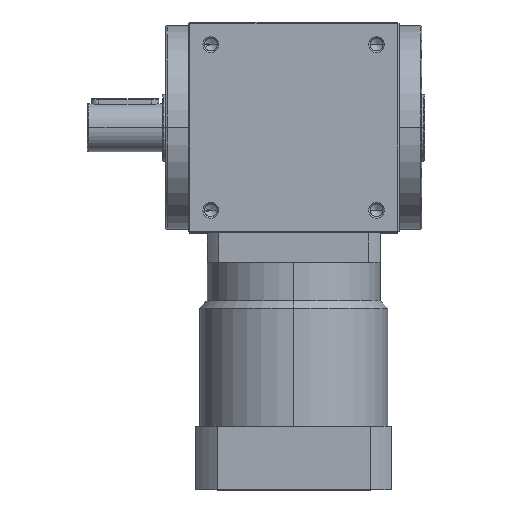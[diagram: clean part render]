
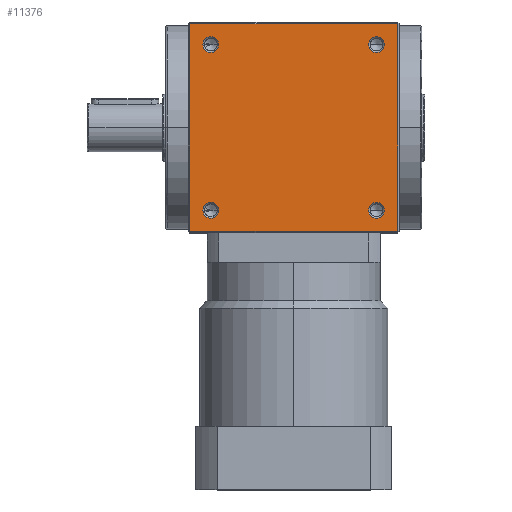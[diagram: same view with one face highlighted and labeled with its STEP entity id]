
A CAD part, top view. The second image highlights one B-rep face of the part: STEP entity #11376.
In plain terms, the highlighted planar face has unit normal (0, 0, 1).
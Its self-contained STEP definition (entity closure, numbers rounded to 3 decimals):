
#105 = CARTESIAN_POINT ( 'NONE',  ( 69., 0., 70. ) ) ;
#118 = ORIENTED_EDGE ( 'NONE', *, *, #1237, .F. ) ;
#139 = VERTEX_POINT ( 'NONE', #995 ) ;
#141 = FACE_BOUND ( 'NONE', #11591, .T. ) ;
#154 = CARTESIAN_POINT ( 'NONE',  ( 69., -69., 70. ) ) ;
#224 = EDGE_CURVE ( 'NONE', #4697, #1906, #8507, .T. ) ;
#240 = VECTOR ( 'NONE', #9110, 1000. ) ;
#300 = EDGE_CURVE ( 'NONE', #3401, #11997, #8054, .T. ) ;
#430 = CARTESIAN_POINT ( 'NONE',  ( 55., 55., 70. ) ) ;
#532 = ORIENTED_EDGE ( 'NONE', *, *, #1804, .T. ) ;
#893 = EDGE_CURVE ( 'NONE', #5810, #9175, #3849, .T. ) ;
#995 = CARTESIAN_POINT ( 'NONE',  ( -69., -69., 70. ) ) ;
#1186 = EDGE_LOOP ( 'NONE', ( #532, #3712, #5298, #3563 ) ) ;
#1200 = EDGE_CURVE ( 'NONE', #11997, #3401, #7726, .T. ) ;
#1237 = EDGE_CURVE ( 'NONE', #1906, #4697, #10354, .T. ) ;
#1308 = CARTESIAN_POINT ( 'NONE',  ( 49.75, -55., 70. ) ) ;
#1333 = EDGE_CURVE ( 'NONE', #9175, #5810, #2339, .T. ) ;
#1413 = LINE ( 'NONE', #1657, #4739 ) ;
#1416 = CARTESIAN_POINT ( 'NONE',  ( -55., -55., 70. ) ) ;
#1501 = DIRECTION ( 'NONE',  ( 1., 0., 0. ) ) ;
#1657 = CARTESIAN_POINT ( 'NONE',  ( -69., 0., 70. ) ) ;
#1804 = EDGE_CURVE ( 'NONE', #4635, #7590, #6040, .T. ) ;
#1906 = VERTEX_POINT ( 'NONE', #7453 ) ;
#2146 = DIRECTION ( 'NONE',  ( 0., 0., 1. ) ) ;
#2339 = CIRCLE ( 'NONE', #5748, 5.25 ) ;
#2342 = LINE ( 'NONE', #5012, #2616 ) ;
#2408 = DIRECTION ( 'NONE',  ( 1., 0., 0. ) ) ;
#2608 = DIRECTION ( 'NONE',  ( 0., -1., 0. ) ) ;
#2616 = VECTOR ( 'NONE', #9579, 1000. ) ;
#2628 = DIRECTION ( 'NONE',  ( 0., 0., 1. ) ) ;
#2719 = DIRECTION ( 'NONE',  ( 0., 0., 1. ) ) ;
#2971 = CARTESIAN_POINT ( 'NONE',  ( 0., 69., 70. ) ) ;
#3030 = DIRECTION ( 'NONE',  ( 0., 0., 1. ) ) ;
#3318 = CIRCLE ( 'NONE', #11906, 5.25 ) ;
#3401 = VERTEX_POINT ( 'NONE', #4058 ) ;
#3563 = ORIENTED_EDGE ( 'NONE', *, *, #9770, .T. ) ;
#3712 = ORIENTED_EDGE ( 'NONE', *, *, #10114, .T. ) ;
#3786 = CARTESIAN_POINT ( 'NONE',  ( 69., 69., 70. ) ) ;
#3849 = CIRCLE ( 'NONE', #6894, 5.25 ) ;
#4058 = CARTESIAN_POINT ( 'NONE',  ( -60.25, 55., 70. ) ) ;
#4178 = CARTESIAN_POINT ( 'NONE',  ( -60.25, -55., 70. ) ) ;
#4299 = EDGE_CURVE ( 'NONE', #6939, #7137, #3318, .T. ) ;
#4635 = VERTEX_POINT ( 'NONE', #154 ) ;
#4637 = DIRECTION ( 'NONE',  ( 0., 0., -1. ) ) ;
#4697 = VERTEX_POINT ( 'NONE', #1308 ) ;
#4739 = VECTOR ( 'NONE', #2608, 1000. ) ;
#4987 = DIRECTION ( 'NONE',  ( 1., 0., 0. ) ) ;
#5012 = CARTESIAN_POINT ( 'NONE',  ( 0., -69., 70. ) ) ;
#5035 = FACE_OUTER_BOUND ( 'NONE', #1186, .T. ) ;
#5106 = ORIENTED_EDGE ( 'NONE', *, *, #893, .F. ) ;
#5298 = ORIENTED_EDGE ( 'NONE', *, *, #9862, .T. ) ;
#5748 = AXIS2_PLACEMENT_3D ( 'NONE', #8249, #3030, #9223 ) ;
#5810 = VERTEX_POINT ( 'NONE', #7846 ) ;
#5829 = EDGE_LOOP ( 'NONE', ( #9556, #5106 ) ) ;
#5993 = CARTESIAN_POINT ( 'NONE',  ( -69., 69., 70. ) ) ;
#6040 = LINE ( 'NONE', #105, #10812 ) ;
#6076 = AXIS2_PLACEMENT_3D ( 'NONE', #7899, #2719, #8889 ) ;
#6128 = AXIS2_PLACEMENT_3D ( 'NONE', #7814, #2628, #8802 ) ;
#6300 = PLANE ( 'NONE',  #9923 ) ;
#6594 = ORIENTED_EDGE ( 'NONE', *, *, #4299, .F. ) ;
#6692 = DIRECTION ( 'NONE',  ( 0., 0., 1. ) ) ;
#6735 = ORIENTED_EDGE ( 'NONE', *, *, #224, .F. ) ;
#6851 = CARTESIAN_POINT ( 'NONE',  ( -49.75, 55., 70. ) ) ;
#6894 = AXIS2_PLACEMENT_3D ( 'NONE', #430, #6692, #1501 ) ;
#6902 = ORIENTED_EDGE ( 'NONE', *, *, #300, .F. ) ;
#6939 = VERTEX_POINT ( 'NONE', #9486 ) ;
#7044 = FACE_BOUND ( 'NONE', #12061, .T. ) ;
#7137 = VERTEX_POINT ( 'NONE', #4178 ) ;
#7139 = DIRECTION ( 'NONE',  ( 0., 0., 1. ) ) ;
#7168 = CARTESIAN_POINT ( 'NONE',  ( 55., -55., 70. ) ) ;
#7263 = CARTESIAN_POINT ( 'NONE',  ( -55., -55., 70. ) ) ;
#7431 = LINE ( 'NONE', #2971, #240 ) ;
#7453 = CARTESIAN_POINT ( 'NONE',  ( 60.25, -55., 70. ) ) ;
#7488 = CIRCLE ( 'NONE', #9844, 5.25 ) ;
#7559 = DIRECTION ( 'NONE',  ( 0., 0., 1. ) ) ;
#7590 = VERTEX_POINT ( 'NONE', #3786 ) ;
#7722 = VERTEX_POINT ( 'NONE', #5993 ) ;
#7726 = CIRCLE ( 'NONE', #6128, 5.25 ) ;
#7814 = CARTESIAN_POINT ( 'NONE',  ( -55., 55., 70. ) ) ;
#7846 = CARTESIAN_POINT ( 'NONE',  ( 49.75, 55., 70. ) ) ;
#7899 = CARTESIAN_POINT ( 'NONE',  ( 55., -55., 70. ) ) ;
#8046 = ORIENTED_EDGE ( 'NONE', *, *, #1200, .F. ) ;
#8054 = CIRCLE ( 'NONE', #8524, 5.25 ) ;
#8249 = CARTESIAN_POINT ( 'NONE',  ( 55., 55., 70. ) ) ;
#8259 = DIRECTION ( 'NONE',  ( 1., 0., 0. ) ) ;
#8507 = CIRCLE ( 'NONE', #8876, 5.25 ) ;
#8524 = AXIS2_PLACEMENT_3D ( 'NONE', #10492, #10477, #10386 ) ;
#8802 = DIRECTION ( 'NONE',  ( 1., 0., 0. ) ) ;
#8876 = AXIS2_PLACEMENT_3D ( 'NONE', #7168, #7139, #4987 ) ;
#8889 = DIRECTION ( 'NONE',  ( 1., 0., 0. ) ) ;
#9110 = DIRECTION ( 'NONE',  ( -1., 0., 0. ) ) ;
#9175 = VERTEX_POINT ( 'NONE', #10123 ) ;
#9223 = DIRECTION ( 'NONE',  ( 1., 0., 0. ) ) ;
#9261 = DIRECTION ( 'NONE',  ( 0., 1., 0. ) ) ;
#9486 = CARTESIAN_POINT ( 'NONE',  ( -49.75, -55., 70. ) ) ;
#9556 = ORIENTED_EDGE ( 'NONE', *, *, #1333, .F. ) ;
#9579 = DIRECTION ( 'NONE',  ( 1., 0., 0. ) ) ;
#9630 = FACE_BOUND ( 'NONE', #5829, .T. ) ;
#9770 = EDGE_CURVE ( 'NONE', #139, #4635, #2342, .T. ) ;
#9844 = AXIS2_PLACEMENT_3D ( 'NONE', #7263, #2146, #8259 ) ;
#9862 = EDGE_CURVE ( 'NONE', #7722, #139, #1413, .T. ) ;
#9923 = AXIS2_PLACEMENT_3D ( 'NONE', #10155, #4637, #11152 ) ;
#9962 = FACE_BOUND ( 'NONE', #12033, .T. ) ;
#10114 = EDGE_CURVE ( 'NONE', #7590, #7722, #7431, .T. ) ;
#10123 = CARTESIAN_POINT ( 'NONE',  ( 60.25, 55., 70. ) ) ;
#10155 = CARTESIAN_POINT ( 'NONE',  ( 0., 0., 70. ) ) ;
#10354 = CIRCLE ( 'NONE', #6076, 5.25 ) ;
#10386 = DIRECTION ( 'NONE',  ( 1., 0., 0. ) ) ;
#10477 = DIRECTION ( 'NONE',  ( 0., 0., 1. ) ) ;
#10492 = CARTESIAN_POINT ( 'NONE',  ( -55., 55., 70. ) ) ;
#10812 = VECTOR ( 'NONE', #9261, 1000. ) ;
#11152 = DIRECTION ( 'NONE',  ( -1., 0., 0. ) ) ;
#11376 = ADVANCED_FACE ( 'NONE', ( #5035, #141, #9962, #9630, #7044 ), #6300, .F. ) ;
#11413 = EDGE_CURVE ( 'NONE', #7137, #6939, #7488, .T. ) ;
#11591 = EDGE_LOOP ( 'NONE', ( #118, #6735 ) ) ;
#11758 = ORIENTED_EDGE ( 'NONE', *, *, #11413, .F. ) ;
#11906 = AXIS2_PLACEMENT_3D ( 'NONE', #1416, #7559, #2408 ) ;
#11997 = VERTEX_POINT ( 'NONE', #6851 ) ;
#12033 = EDGE_LOOP ( 'NONE', ( #6594, #11758 ) ) ;
#12061 = EDGE_LOOP ( 'NONE', ( #8046, #6902 ) ) ;
